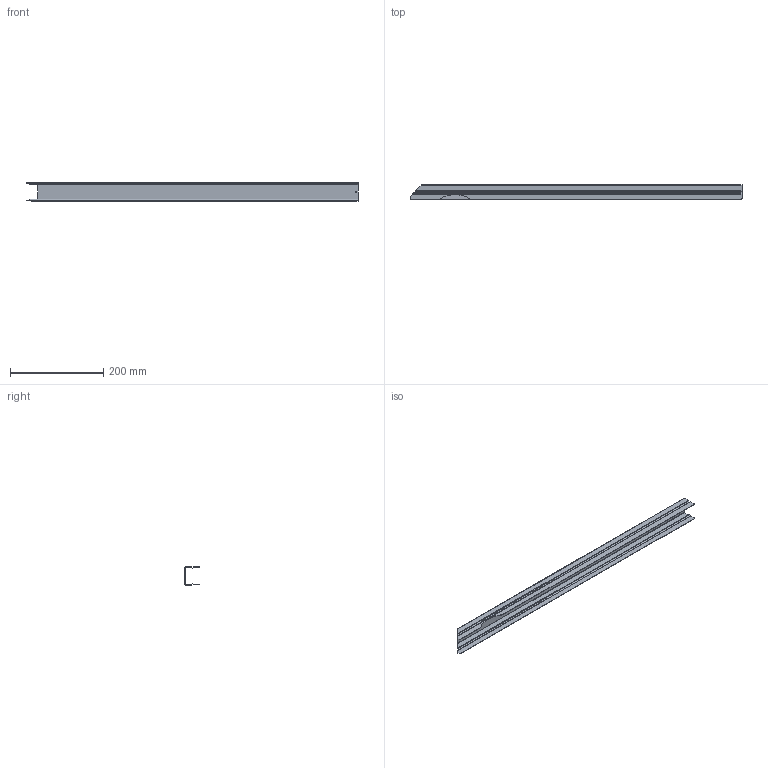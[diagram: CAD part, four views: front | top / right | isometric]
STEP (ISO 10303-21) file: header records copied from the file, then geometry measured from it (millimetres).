
FILE_DESCRIPTION (( 'STEP AP203' ), '1' );
FILE_NAME ('70-0271-00 REV 1, CABLE COVER, 24in FLEX, BLACK.STEP', '2017-11-21T00:14:45', ( '' ), ( '' ), 'SwSTEP 2.0', 'SolidWorks 2012', '' );
FILE_SCHEMA (( 'CONFIG_CONTROL_DESIGN' ));
Length unit declared in the file: inch
Products named in the file (1): 70-0271-00 REV 1, CABLE COVER, 24in FLEX, BLACK
Bounding box: 711.2 x 31.76 x 38.98 mm (x, y, z)
Volume: 65724.2 mm3; surface area: 145270.9 mm2
Topology: 1 solids, 1 shells, 88 faces, 194 edges, 108 vertices
Faces by surface type: plane 49, cylinder 27, bspline 12
Entity records: 2683 total; most frequent: CARTESIAN_POINT 799, ORIENTED_EDGE 388, DIRECTION 358, EDGE_CURVE 194, VECTOR 128, LINE 128, AXIS2_PLACEMENT_3D 115, VERTEX_POINT 108
